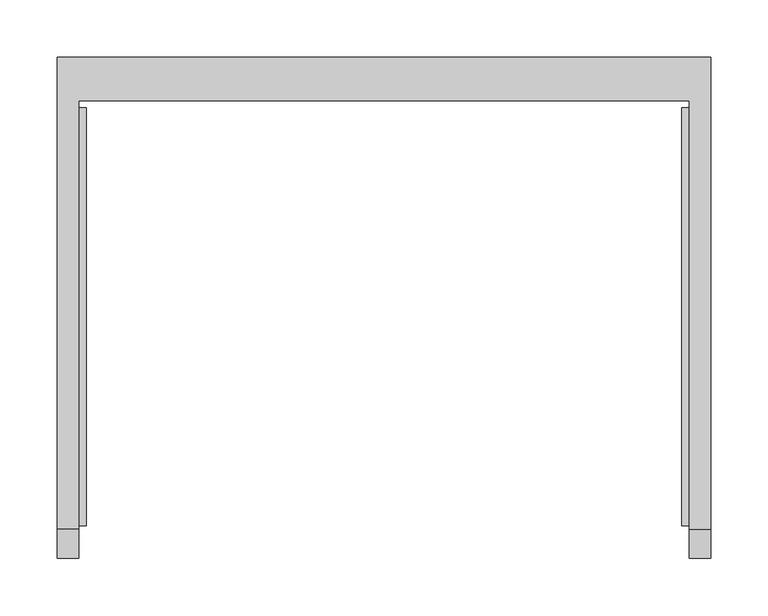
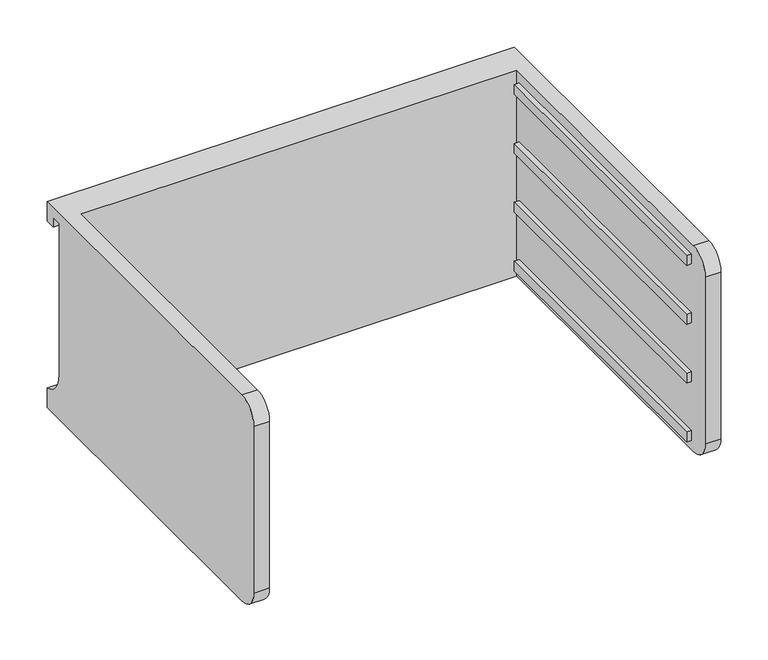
"""IFC4 building model written with IfcOpenShell, lengths in millimetres: furniture geometry."""

from ifc_helpers import new_model, si_unit, frame, origin, place, context, project, spatial, polyline, circle_curve, outline, extrude, source, transform, mapped, element, save
from ifc_brep_helpers import plane_surface, cylinder_surface, revolved_surface, advanced_brep


def furniture_dda152d5(model_context):
    return source(origin(), model_context, "Body", "SolidModel", [
        advanced_brep(
        [(-171.7622951, -331.6523397, 519.4427), (-171.7622951, -357.0523397, 494.0427), (-171.7622951, -357.0523397, 278.1427), (-171.7622951, -331.6523397, 252.7427), (-171.7622951, 43.0421197, 252.7427), (-171.7622951, 43.0421197, 519.4427), (-190.8122951, -331.6523397, 252.7427), (-190.8122951, -357.0523397, 278.1427), (-190.8122951, -357.0523397, 494.0427), (-190.8122951, -331.6523397, 519.4427), (-190.8122951, 81.0976603, 519.4427), (-190.8122951, 81.0976603, 494.0427), (-190.8122951, 68.4421197, 494.0427), (-190.8122951, 68.4421197, 506.7427), (-190.8122951, 55.7421197, 506.7427), (-190.8122951, 55.7421197, 310.68772), (-190.8122951, 81.0976603, 278.1427), (-190.8122951, 81.0976603, 252.7427), (380.6877049, 81.0976603, 252.7427), (380.6877049, -331.6523397, 252.7427), (361.6377049, -331.6523397, 252.7427), (361.6377049, 43.0421197, 252.7427), (361.6377049, 43.0421197, 519.4427), (361.6377049, -331.6523397, 519.4427), (380.6877049, -331.6523397, 519.4427), (380.6877049, 81.0976603, 519.4427), (380.6877049, 81.0976603, 278.1427), (380.6877049, 55.7421197, 310.68772), (380.6877049, 55.7421197, 506.7427), (380.6877049, 68.4421197, 506.7427), (380.6877049, 68.4421197, 494.0427), (380.6877049, 81.0976603, 494.0427), (380.6877049, -357.0523397, 494.0427), (380.6877049, -357.0523397, 278.1427), (361.6377049, -357.0523397, 278.1427), (361.6377049, -357.0523397, 494.0427)],
        [
            (0, 1, circle_curve(frame((-171.7622951, -331.6523397, 494.0427), z_axis=(1.0, 0.0, 0.0), x_axis=(0.0, 0.0, 1.0)), 25.4)),
            (1, 2),
            (2, 3, circle_curve(frame((-171.7622951, -331.6523397, 278.1427), z_axis=(1.0, 0.0, 0.0), x_axis=(0.0, 0.0, 1.0)), 25.4)),
            (3, 4),
            (4, 5),
            (5, 0),
            (6, 7, circle_curve(frame((-190.8122951, -331.6523397, 278.1427), z_axis=(-1.0, 0.0, 0.0), x_axis=(0.0, 0.0, 1.0)), 25.4)),
            (7, 8),
            (8, 9, circle_curve(frame((-190.8122951, -331.6523397, 494.0427), z_axis=(-1.0, 0.0, 0.0), x_axis=(0.0, 0.0, 1.0)), 25.4)),
            (9, 10),
            (10, 11),
            (11, 12),
            (12, 13),
            (13, 14),
            (14, 15),
            (15, 16, circle_curve(frame((-190.8122951, 89.3064162, 310.68772), z_axis=(1.0, 0.0, 0.0), x_axis=(0.0, 0.0, 1.0)), 33.5642965)),
            (16, 17),
            (17, 6),
            (0, 9),
            (8, 1),
            (7, 2),
            (6, 3),
            (17, 18),
            (18, 19),
            (19, 20),
            (20, 21),
            (21, 4),
            (5, 22),
            (22, 23),
            (23, 24),
            (24, 25),
            (25, 10),
            (18, 26),
            (26, 27, circle_curve(frame((380.6877049, 89.3064162, 310.68772), z_axis=(-1.0, 0.0, 0.0), x_axis=(0.0, 0.0, 1.0)), 33.5642965)),
            (27, 28),
            (28, 29),
            (29, 30),
            (30, 31),
            (31, 25),
            (24, 32, circle_curve(frame((380.6877049, -331.6523397, 494.0427), z_axis=(1.0, 0.0, 0.0), x_axis=(0.0, 0.0, 1.0)), 25.4)),
            (32, 33),
            (33, 19, circle_curve(frame((380.6877049, -331.6523397, 278.1427), z_axis=(1.0, 0.0, 0.0), x_axis=(0.0, 0.0, 1.0)), 25.4)),
            (16, 26),
            (15, 27),
            (14, 28),
            (13, 29),
            (12, 30),
            (11, 31),
            (21, 22),
            (20, 34, circle_curve(frame((361.6377049, -331.6523397, 278.1427), z_axis=(-1.0, 0.0, 0.0), x_axis=(0.0, 0.0, 1.0)), 25.4)),
            (34, 35),
            (35, 23, circle_curve(frame((361.6377049, -331.6523397, 494.0427), z_axis=(-1.0, 0.0, 0.0), x_axis=(0.0, 0.0, 1.0)), 25.4)),
            (35, 32),
            (34, 33),
        ],
        [
            plane_surface(frame((-171.7622951, -331.6523397, 519.4427), z_axis=(1.0, 0.0, 0.0), x_axis=(0.0, -1.0, 0.0))),
            plane_surface(frame((-190.8122951, -331.6523397, 519.4427), z_axis=(-1.0, 0.0, 0.0), x_axis=(0.0, 1.0, 0.0))),
            cylinder_surface(frame((-190.8122951, -331.6523397, 494.0427), z_axis=(1.0, 0.0, 0.0), x_axis=(0.0, 0.0, 1.0)), 25.4),
            plane_surface(frame((-171.7622951, -357.0523397, 494.0427), z_axis=(0.0, -1.0, 0.0), x_axis=(-1.0, 0.0, 0.0))),
            cylinder_surface(frame((-190.8122951, -331.6523397, 278.1427), z_axis=(1.0, 0.0, 0.0), x_axis=(0.0, 0.0, 1.0)), 25.4),
            plane_surface(frame((-171.7622951, -331.6523397, 252.7427), z_axis=(0.0, 0.0, -1.0), x_axis=(-1.0, 0.0, 0.0))),
            plane_surface(frame((-171.7622951, 43.0421197, 519.4427), z_axis=(0.0, 0.0, 1.0), x_axis=(-1.0, 0.0, 0.0))),
            plane_surface(frame((380.6877049, 81.0976603, 278.1427), z_axis=(1.0, 0.0, 0.0), x_axis=(0.0, 0.0, 1.0))),
            plane_surface(frame((380.6877049, 81.0976603, 252.7427), z_axis=(0.0, 1.0, 0.0), x_axis=(-1.0, 0.0, 0.0))),
            revolved_surface(polyline([(-190.8122951, 89.3064162, 344.2520165), (380.68770489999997, 89.3064162, 344.2520165)]), (-190.8122951, 89.3064162, 310.68772), (-1.0, 0.0, 0.0)),
            plane_surface(frame((380.6877049, 55.7421197, 310.68772), z_axis=(0.0, 1.0, 0.0), x_axis=(-1.0, 0.0, 0.0))),
            plane_surface(frame((380.6877049, 55.7421197, 506.7427), z_axis=(0.0, 0.0, -1.0), x_axis=(-1.0, 0.0, 0.0))),
            plane_surface(frame((380.6877049, 68.4421197, 506.7427), z_axis=(0.0, -1.0, 0.0), x_axis=(-1.0, 0.0, 0.0))),
            plane_surface(frame((380.6877049, 68.4421197, 494.0427), z_axis=(0.0, 0.0, -1.0), x_axis=(-1.0, 0.0, 0.0))),
            plane_surface(frame((380.6877049, 81.0976603, 494.0427), z_axis=(0.0, 1.0, 0.0), x_axis=(-1.0, 0.0, 0.0))),
            plane_surface(frame((380.6877049, 43.0421197, 519.4427), z_axis=(0.0, -1.0, 0.0), x_axis=(-1.0, 0.0, 0.0))),
            plane_surface(frame((361.6377049, -331.6523397, 519.4427), z_axis=(-1.0, 0.0, 0.0), x_axis=(0.0, 1.0, 0.0))),
            cylinder_surface(frame((361.6377049, -331.6523397, 494.0427), z_axis=(1.0, 0.0, 0.0), x_axis=(0.0, 0.0, 1.0)), 25.4),
            plane_surface(frame((380.6877049, -357.0523397, 494.0427), z_axis=(0.0, -1.0, 0.0), x_axis=(-1.0, 0.0, 0.0))),
            cylinder_surface(frame((361.6377049, -331.6523397, 278.1427), z_axis=(1.0, 0.0, 0.0), x_axis=(0.0, 0.0, 1.0)), 25.4),
        ],
        [
            (0, [[1, 2, 3, 4, 5, 6]]),
            (1, [[7, 8, 9, 10, 11, 12, 13, 14, 15, 16, 17, 18]]),
            (2, [[-1, 19, -9, 20]]),
            (3, [[-2, -20, -8, 21]]),
            (4, [[-3, -21, -7, 22]]),
            (5, [[-4, -22, -18, 23, 24, 25, 26, 27]]),
            (6, [[-6, 28, 29, 30, 31, 32, -10, -19]]),
            (7, [[-24, 33, 34, 35, 36, 37, 38, 39, -31, 40, 41, 42]]),
            (8, [[-33, -23, -17, 43]]),
            (9, [[-34, -43, -16, 44]]),
            (10, [[-35, -44, -15, 45]]),
            (11, [[-36, -45, -14, 46]]),
            (12, [[-37, -46, -13, 47]]),
            (13, [[-38, -47, -12, 48]]),
            (14, [[-39, -48, -11, -32]]),
            (15, [[-5, -27, 49, -28]]),
            (16, [[-29, -49, -26, 50, 51, 52]]),
            (17, [[-40, -30, -52, 53]]),
            (18, [[-41, -53, -51, 54]]),
            (19, [[-42, -54, -50, -25]]),
        ],
    ),
        extrude(outline(polyline([(355.2877049, -328.4773397), (355.2877049, 36.6921197), (361.6377049, 36.6921197), (361.6377049, -328.4773397), (355.2877049, -328.4773397)])), frame((0.0, 0.0, 341.6427), z_axis=(0.0, 0.0, 1.0), x_axis=(1.0, 0.0, 0.0)), (0.0, 0.0, 1.0), 12.7),
        extrude(outline(polyline([(355.2877049, -328.4773397), (355.2877049, 36.6921197), (361.6377049, 36.6921197), (361.6377049, -328.4773397), (355.2877049, -328.4773397)])), frame((0.0, 0.0, 417.8427), z_axis=(0.0, 0.0, 1.0), x_axis=(1.0, 0.0, 0.0)), (0.0, 0.0, 1.0), 12.7),
        extrude(outline(polyline([(355.2877049, -328.4773397), (355.2877049, 36.6921197), (361.6377049, 36.6921197), (361.6377049, -328.4773397), (355.2877049, -328.4773397)])), frame((0.0, 0.0, 494.0427), z_axis=(0.0, 0.0, 1.0), x_axis=(1.0, 0.0, 0.0)), (0.0, 0.0, 1.0), 12.7),
        extrude(outline(polyline([(355.2877049, -328.4773397), (355.2877049, 36.6921197), (361.6377049, 36.6921197), (361.6377049, -328.4773397), (355.2877049, -328.4773397)])), frame((0.0, 0.0, 265.4427), z_axis=(0.0, 0.0, 1.0), x_axis=(1.0, 0.0, 0.0)), (0.0, 0.0, 1.0), 12.7),
        extrude(outline(polyline([(-171.7622951, -328.4773397), (-171.7622951, 36.6921197), (-165.4122951, 36.6921197), (-165.4122951, -328.4773397), (-171.7622951, -328.4773397)])), frame((0.0, 0.0, 341.6427), z_axis=(0.0, 0.0, 1.0), x_axis=(1.0, 0.0, 0.0)), (0.0, 0.0, 1.0), 12.7),
        extrude(outline(polyline([(-171.7622951, -328.4773397), (-171.7622951, 36.6921197), (-165.4122951, 36.6921197), (-165.4122951, -328.4773397), (-171.7622951, -328.4773397)])), frame((0.0, 0.0, 417.8427), z_axis=(0.0, 0.0, 1.0), x_axis=(1.0, 0.0, 0.0)), (0.0, 0.0, 1.0), 12.7),
        extrude(outline(polyline([(-171.7622951, -328.4773397), (-171.7622951, 36.6921197), (-165.4122951, 36.6921197), (-165.4122951, -328.4773397), (-171.7622951, -328.4773397)])), frame((0.0, 0.0, 494.0427), z_axis=(0.0, 0.0, 1.0), x_axis=(1.0, 0.0, 0.0)), (0.0, 0.0, 1.0), 12.7),
        extrude(outline(polyline([(-171.7622951, -328.4773397), (-171.7622951, 36.6921197), (-165.4122951, 36.6921197), (-165.4122951, -328.4773397), (-171.7622951, -328.4773397)])), frame((0.0, 0.0, 265.4427), z_axis=(0.0, 0.0, 1.0), x_axis=(1.0, 0.0, 0.0)), (0.0, 0.0, 1.0), 12.7),
    ])


if __name__ == "__main__":
    model = new_model("IFC4")
    model_context = context("Model", 3, world=origin())
    ifc_project = project(units=[si_unit("LENGTHUNIT", "METRE", prefix="MILLI")], contexts=[model_context])
    site = spatial("IfcSite", under=ifc_project)
    building = spatial("IfcBuilding", under=site)
    placement = place(None, origin())
    furniture_shape = furniture_dda152d5(model_context)
    element("IfcFurniture", 1, ObjectType="HermanMiller_CoStruc_CO205_CFrame : 10\"H x 17\"D x 22\"W", at=placement, inside=building, context=model_context, shape_type="MappedRepresentation", body=[
        mapped(furniture_shape, transform((0.0, 0.0, 0.0), x_axis=(1.0, 0.0, 0.0), y_axis=(0.0, 1.0, 0.0), z_axis=(0.0, 0.0, 1.0))),
    ])
    save(model, "model.ifc")
